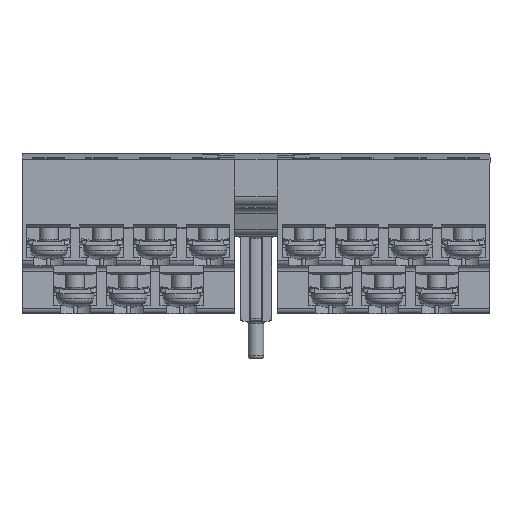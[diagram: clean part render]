
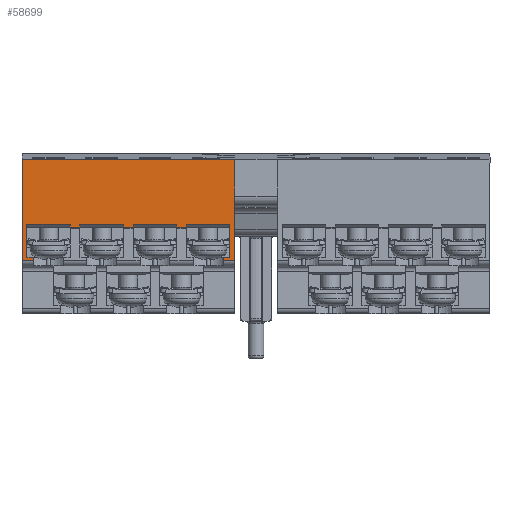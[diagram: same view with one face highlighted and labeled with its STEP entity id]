
A CAD part, left-side view. The second image highlights one B-rep face of the part: STEP entity #58699.
In plain terms, the highlighted planar face has unit normal (-1, 0, 0).
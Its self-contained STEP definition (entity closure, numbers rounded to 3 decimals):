
#42789=CARTESIAN_POINT('',(-43.5,4.,2.0));
#42790=VERTEX_POINT('',#42789);
#42798=CARTESIAN_POINT('',(-43.5,4.,-10.1));
#42799=VERTEX_POINT('',#42798);
#42800=CARTESIAN_POINT('',(-43.5,4.,2.0));
#42801=DIRECTION('',(0.0,0.0,-1.0));
#42802=VECTOR('',#42801,12.1);
#42803=LINE('',#42800,#42802);
#42804=EDGE_CURVE('',#42790,#42799,#42803,.T.);
#44090=CARTESIAN_POINT('',(-43.5,44.,8.9));
#44091=VERTEX_POINT('',#44090);
#44098=CARTESIAN_POINT('',(-43.5,4.,8.9));
#44099=VERTEX_POINT('',#44098);
#44100=CARTESIAN_POINT('',(-43.5,4.,8.9));
#44101=DIRECTION('',(0.0,1.0,0.0));
#44102=VECTOR('',#44101,40.0);
#44103=LINE('',#44100,#44102);
#44104=EDGE_CURVE('',#44099,#44091,#44103,.T.);
#51874=CARTESIAN_POINT('',(-43.5,44.,-10.1));
#51875=VERTEX_POINT('',#51874);
#51883=CARTESIAN_POINT('',(-43.5,44.,8.9));
#51884=DIRECTION('',(0.0,0.0,-1.0));
#51885=VECTOR('',#51884,19.);
#51886=LINE('',#51883,#51885);
#51887=EDGE_CURVE('',#44091,#51875,#51886,.T.);
#55433=CARTESIAN_POINT('',(-43.5,4.9,-9.5));
#55434=VERTEX_POINT('',#55433);
#55441=CARTESIAN_POINT('',(-43.5,4.9,-3.3));
#55442=VERTEX_POINT('',#55441);
#55443=CARTESIAN_POINT('',(-43.5,4.9,-3.3));
#55444=DIRECTION('',(0.0,0.0,-1.0));
#55445=VECTOR('',#55444,6.2);
#55446=LINE('',#55443,#55445);
#55447=EDGE_CURVE('',#55442,#55434,#55446,.T.);
#58526=CARTESIAN_POINT('',(-43.5,44.,10.));
#58527=DIRECTION('',(-1.0,0.0,0.0));
#58528=DIRECTION('',(0.0,0.0,1.0));
#58529=AXIS2_PLACEMENT_3D('',#58526,#58527,#58528);
#58530=PLANE('',#58529);
#58531=ORIENTED_EDGE('',*,*,#44104,.T.);
#58532=ORIENTED_EDGE('',*,*,#51887,.T.);
#58533=CARTESIAN_POINT('',(-43.5,41.8,-10.1));
#58534=VERTEX_POINT('',#58533);
#58535=CARTESIAN_POINT('',(-43.5,41.8,-10.1));
#58536=DIRECTION('',(0.0,1.0,0.0));
#58537=VECTOR('',#58536,2.2);
#58538=LINE('',#58535,#58537);
#58539=EDGE_CURVE('',#58534,#51875,#58538,.T.);
#58540=ORIENTED_EDGE('',*,*,#58539,.F.);
#58541=CARTESIAN_POINT('',(-43.5,41.8,-9.5));
#58542=VERTEX_POINT('',#58541);
#58543=CARTESIAN_POINT('',(-43.5,41.8,-10.1));
#58544=DIRECTION('',(0.0,0.0,1.0));
#58545=VECTOR('',#58544,0.6);
#58546=LINE('',#58543,#58545);
#58547=EDGE_CURVE('',#58534,#58542,#58546,.T.);
#58548=ORIENTED_EDGE('',*,*,#58547,.T.);
#58549=CARTESIAN_POINT('',(-43.5,43.1,-9.5));
#58550=VERTEX_POINT('',#58549);
#58551=CARTESIAN_POINT('',(-43.5,41.8,-9.5));
#58552=DIRECTION('',(0.0,1.0,0.0));
#58553=VECTOR('',#58552,1.3);
#58554=LINE('',#58551,#58553);
#58555=EDGE_CURVE('',#58542,#58550,#58554,.T.);
#58556=ORIENTED_EDGE('',*,*,#58555,.T.);
#58557=CARTESIAN_POINT('',(-43.5,43.1,-3.3));
#58558=VERTEX_POINT('',#58557);
#58559=CARTESIAN_POINT('',(-43.5,43.1,-9.5));
#58560=DIRECTION('',(0.0,0.0,1.0));
#58561=VECTOR('',#58560,6.2);
#58562=LINE('',#58559,#58561);
#58563=EDGE_CURVE('',#58550,#58558,#58562,.T.);
#58564=ORIENTED_EDGE('',*,*,#58563,.T.);
#58565=CARTESIAN_POINT('',(-43.5,34.9,-3.3));
#58566=VERTEX_POINT('',#58565);
#58567=CARTESIAN_POINT('',(-43.5,43.1,-3.3));
#58568=DIRECTION('',(0.0,-1.0,0.0));
#58569=VECTOR('',#58568,8.2);
#58570=LINE('',#58567,#58569);
#58571=EDGE_CURVE('',#58558,#58566,#58570,.T.);
#58572=ORIENTED_EDGE('',*,*,#58571,.T.);
#58573=CARTESIAN_POINT('',(-43.5,34.9,-3.8));
#58574=VERTEX_POINT('',#58573);
#58575=CARTESIAN_POINT('',(-43.5,34.9,-3.3));
#58576=DIRECTION('',(0.0,0.0,-1.0));
#58577=VECTOR('',#58576,0.5);
#58578=LINE('',#58575,#58577);
#58579=EDGE_CURVE('',#58566,#58574,#58578,.T.);
#58580=ORIENTED_EDGE('',*,*,#58579,.T.);
#58581=CARTESIAN_POINT('',(-43.5,33.1,-3.8));
#58582=VERTEX_POINT('',#58581);
#58583=CARTESIAN_POINT('',(-43.5,34.9,-3.8));
#58584=DIRECTION('',(0.0,-1.0,0.0));
#58585=VECTOR('',#58584,1.8);
#58586=LINE('',#58583,#58585);
#58587=EDGE_CURVE('',#58574,#58582,#58586,.T.);
#58588=ORIENTED_EDGE('',*,*,#58587,.T.);
#58589=CARTESIAN_POINT('',(-43.5,33.1,-3.3));
#58590=VERTEX_POINT('',#58589);
#58591=CARTESIAN_POINT('',(-43.5,33.1,-3.8));
#58592=DIRECTION('',(0.0,0.0,1.0));
#58593=VECTOR('',#58592,0.5);
#58594=LINE('',#58591,#58593);
#58595=EDGE_CURVE('',#58582,#58590,#58594,.T.);
#58596=ORIENTED_EDGE('',*,*,#58595,.T.);
#58597=CARTESIAN_POINT('',(-43.5,24.9,-3.3));
#58598=VERTEX_POINT('',#58597);
#58599=CARTESIAN_POINT('',(-43.5,33.1,-3.3));
#58600=DIRECTION('',(0.0,-1.0,0.0));
#58601=VECTOR('',#58600,8.2);
#58602=LINE('',#58599,#58601);
#58603=EDGE_CURVE('',#58590,#58598,#58602,.T.);
#58604=ORIENTED_EDGE('',*,*,#58603,.T.);
#58605=CARTESIAN_POINT('',(-43.5,24.9,-3.8));
#58606=VERTEX_POINT('',#58605);
#58607=CARTESIAN_POINT('',(-43.5,24.9,-3.3));
#58608=DIRECTION('',(0.0,0.0,-1.0));
#58609=VECTOR('',#58608,0.5);
#58610=LINE('',#58607,#58609);
#58611=EDGE_CURVE('',#58598,#58606,#58610,.T.);
#58612=ORIENTED_EDGE('',*,*,#58611,.T.);
#58613=CARTESIAN_POINT('',(-43.5,23.1,-3.8));
#58614=VERTEX_POINT('',#58613);
#58615=CARTESIAN_POINT('',(-43.5,24.9,-3.8));
#58616=DIRECTION('',(0.0,-1.0,0.0));
#58617=VECTOR('',#58616,1.8);
#58618=LINE('',#58615,#58617);
#58619=EDGE_CURVE('',#58606,#58614,#58618,.T.);
#58620=ORIENTED_EDGE('',*,*,#58619,.T.);
#58621=CARTESIAN_POINT('',(-43.5,23.1,-3.3));
#58622=VERTEX_POINT('',#58621);
#58623=CARTESIAN_POINT('',(-43.5,23.1,-3.8));
#58624=DIRECTION('',(0.0,0.0,1.0));
#58625=VECTOR('',#58624,0.5);
#58626=LINE('',#58623,#58625);
#58627=EDGE_CURVE('',#58614,#58622,#58626,.T.);
#58628=ORIENTED_EDGE('',*,*,#58627,.T.);
#58629=CARTESIAN_POINT('',(-43.5,14.9,-3.3));
#58630=VERTEX_POINT('',#58629);
#58631=CARTESIAN_POINT('',(-43.5,23.1,-3.3));
#58632=DIRECTION('',(0.0,-1.0,0.0));
#58633=VECTOR('',#58632,8.2);
#58634=LINE('',#58631,#58633);
#58635=EDGE_CURVE('',#58622,#58630,#58634,.T.);
#58636=ORIENTED_EDGE('',*,*,#58635,.T.);
#58637=CARTESIAN_POINT('',(-43.5,14.9,-3.8));
#58638=VERTEX_POINT('',#58637);
#58639=CARTESIAN_POINT('',(-43.5,14.9,-3.3));
#58640=DIRECTION('',(0.0,0.0,-1.0));
#58641=VECTOR('',#58640,0.5);
#58642=LINE('',#58639,#58641);
#58643=EDGE_CURVE('',#58630,#58638,#58642,.T.);
#58644=ORIENTED_EDGE('',*,*,#58643,.T.);
#58645=CARTESIAN_POINT('',(-43.5,13.1,-3.8));
#58646=VERTEX_POINT('',#58645);
#58647=CARTESIAN_POINT('',(-43.5,14.9,-3.8));
#58648=DIRECTION('',(0.0,-1.0,0.0));
#58649=VECTOR('',#58648,1.8);
#58650=LINE('',#58647,#58649);
#58651=EDGE_CURVE('',#58638,#58646,#58650,.T.);
#58652=ORIENTED_EDGE('',*,*,#58651,.T.);
#58653=CARTESIAN_POINT('',(-43.5,13.1,-3.3));
#58654=VERTEX_POINT('',#58653);
#58655=CARTESIAN_POINT('',(-43.5,13.1,-3.8));
#58656=DIRECTION('',(0.0,0.0,1.0));
#58657=VECTOR('',#58656,0.5);
#58658=LINE('',#58655,#58657);
#58659=EDGE_CURVE('',#58646,#58654,#58658,.T.);
#58660=ORIENTED_EDGE('',*,*,#58659,.T.);
#58661=CARTESIAN_POINT('',(-43.5,13.1,-3.3));
#58662=DIRECTION('',(0.0,-1.0,0.0));
#58663=VECTOR('',#58662,8.2);
#58664=LINE('',#58661,#58663);
#58665=EDGE_CURVE('',#58654,#55442,#58664,.T.);
#58666=ORIENTED_EDGE('',*,*,#58665,.T.);
#58667=ORIENTED_EDGE('',*,*,#55447,.T.);
#58668=CARTESIAN_POINT('',(-43.5,6.2,-9.5));
#58669=VERTEX_POINT('',#58668);
#58670=CARTESIAN_POINT('',(-43.5,4.9,-9.5));
#58671=DIRECTION('',(0.0,1.0,0.0));
#58672=VECTOR('',#58671,1.3);
#58673=LINE('',#58670,#58672);
#58674=EDGE_CURVE('',#55434,#58669,#58673,.T.);
#58675=ORIENTED_EDGE('',*,*,#58674,.T.);
#58676=CARTESIAN_POINT('',(-43.5,6.2,-10.1));
#58677=VERTEX_POINT('',#58676);
#58678=CARTESIAN_POINT('',(-43.5,6.2,-9.5));
#58679=DIRECTION('',(0.0,0.0,-1.0));
#58680=VECTOR('',#58679,0.6);
#58681=LINE('',#58678,#58680);
#58682=EDGE_CURVE('',#58669,#58677,#58681,.T.);
#58683=ORIENTED_EDGE('',*,*,#58682,.T.);
#58684=CARTESIAN_POINT('',(-43.5,4.,-10.1));
#58685=DIRECTION('',(0.0,1.0,0.0));
#58686=VECTOR('',#58685,2.2);
#58687=LINE('',#58684,#58686);
#58688=EDGE_CURVE('',#42799,#58677,#58687,.T.);
#58689=ORIENTED_EDGE('',*,*,#58688,.F.);
#58690=ORIENTED_EDGE('',*,*,#42804,.F.);
#58691=CARTESIAN_POINT('',(-43.5,4.,2.0));
#58692=DIRECTION('',(0.0,0.0,1.0));
#58693=VECTOR('',#58692,6.9);
#58694=LINE('',#58691,#58693);
#58695=EDGE_CURVE('',#42790,#44099,#58694,.T.);
#58696=ORIENTED_EDGE('',*,*,#58695,.T.);
#58697=EDGE_LOOP('',(#58531,#58532,#58540,#58548,#58556,#58564,#58572,#58580,#58588,#58596,#58604,#58612,#58620,#58628,#58636,#58644,#58652,#58660,#58666,#58667,#58675,#58683,#58689,#58690,#58696));
#58698=FACE_OUTER_BOUND('',#58697,.T.);
#58699=ADVANCED_FACE('',(#58698),#58530,.T.);
